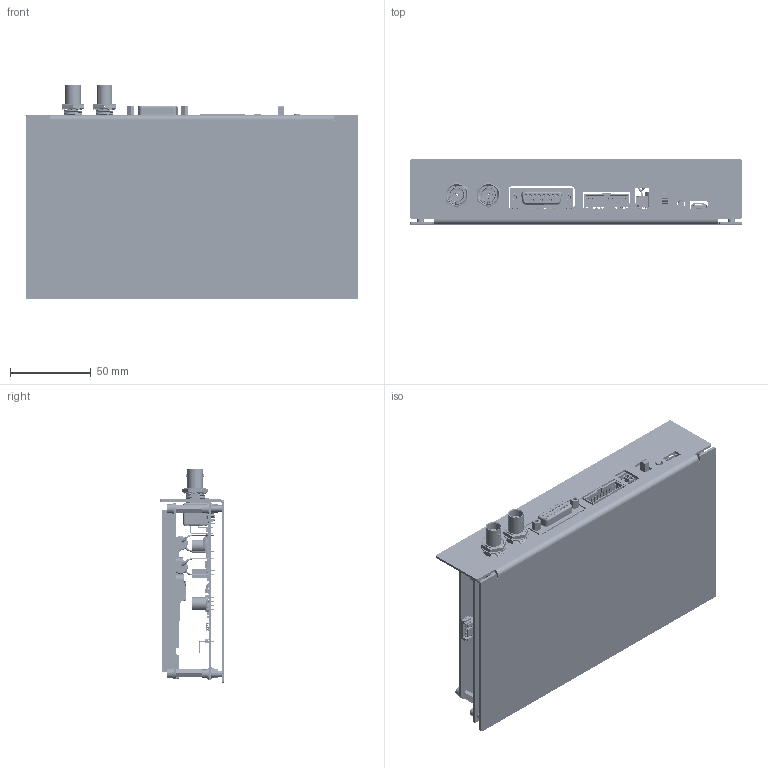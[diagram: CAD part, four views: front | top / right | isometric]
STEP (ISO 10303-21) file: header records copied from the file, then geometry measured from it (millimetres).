
FILE_DESCRIPTION (( 'STEP AP214' ), '1' );
FILE_NAME ('481.00.00.000-A01_LDD-RC.STEP', '2025-05-17T09:23:40', ( '' ), ( '' ), 'SwSTEP 2.0', 'SolidWorks 2019', '' );
FILE_SCHEMA (( 'AUTOMOTIVE_DESIGN' ));
Length unit declared in the file: millimetre
Products named in the file (10): 481.00.01.000-A01_Êðîíøòåéí â ñáîðå; ﾘ琺矜 ﾌ3 DIN125; Nextion display NX8048; 栺鍣罻 PCHSS-20; Ïëàòà LDDRC RevA; Âòóëêà ðåçüá. íåïîëíîïðîõ. BSO-M3-8 ZI_BSO-M3-8-ZI; ﾘ琺矜 ﾌ3 DIN127; 妈眚 󉱴 DIN912; 481.00.00.000-A01_LDD-RC; 481.00.01.001-A01_ﾊ煇鳫
Assembly tree (48 placements, depth 3):
  481.00.00.000-A01_LDD-RC
    Ïëàòà LDDRC RevA
    Nextion display NX8048
    481.00.01.000-A01_Êðîíøòåéí â ñáîðå
      481.00.01.001-A01_ﾊ煇鳫
      Âòóëêà ðåçüá. íåïîëíîïðîõ. BSO-M3-8 ZI_BSO-M3-8-ZI  x4
    栺鍣罻 PCHSS-20  x4
    ﾘ琺矜 ﾌ3 DIN125  x12
    ﾘ琺矜 ﾌ3 DIN127  x12
    妈眚 󉱴 DIN912  x12
Bounding box: 205 x 40 x 132.13 mm (x, y, z)
Volume: 47548.6 mm3; surface area: 211971.5 mm2
Topology: 45 solids, 1296 shells, 5625 faces, 32973 edges, 28261 vertices
Faces by surface type: plane 3721, cylinder 1269, bspline 273, cone 207, torus 123, sphere 32
Entity records: 405020 total; most frequent: CARTESIAN_POINT 143522, ORIENTED_EDGE 38838, EDGE_CURVE 31534, DIRECTION 31323, VERTEX_POINT 27415, VECTOR 16157, LINE 16157, B_SPLINE_CURVE_WITH_KNOTS 12410
